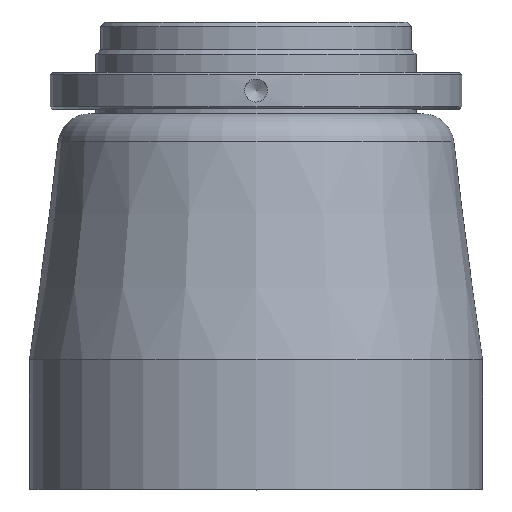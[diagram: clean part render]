
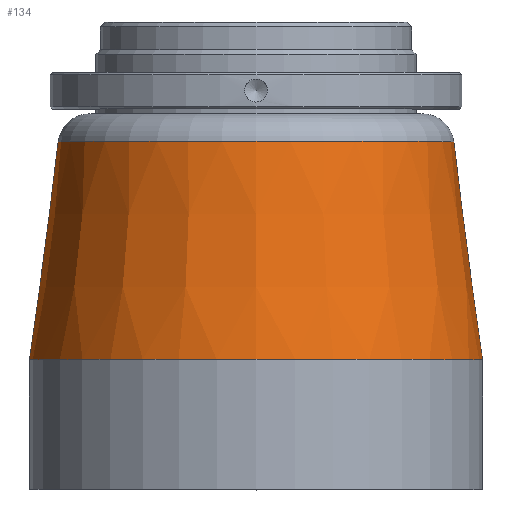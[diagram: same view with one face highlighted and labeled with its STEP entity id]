
A CAD part, top view. The second image highlights one B-rep face of the part: STEP entity #134.
In plain terms, the highlighted conical face has half-angle 7.5 degrees and reference radius 49.5 mm.
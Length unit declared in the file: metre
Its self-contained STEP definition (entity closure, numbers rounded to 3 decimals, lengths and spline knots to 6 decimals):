
#134=ADVANCED_FACE('',(#310,#311),#312,.T.);
#310=FACE_BOUND('',#581,.T.);
#311=FACE_OUTER_BOUND('',#582,.T.);
#312=CONICAL_SURFACE('',#583,0.0495,0.131);
#581=EDGE_LOOP('',(#864));
#582=EDGE_LOOP('',(#865));
#583=AXIS2_PLACEMENT_3D('',#866,#867,#868);
#864=ORIENTED_EDGE('',*,*,#1312,.F.);
#865=ORIENTED_EDGE('',*,*,#1313,.T.);
#866=CARTESIAN_POINT('',(-0.029174,0.023368,0.0));
#867=DIRECTION('',(0.0,-1.0,-0.0));
#868=DIRECTION('',(0.0,0.0,-1.0));
#1312=EDGE_CURVE('',#1512,#1512,#1513,.T.);
#1313=EDGE_CURVE('',#1514,#1514,#1515,.T.);
#1512=VERTEX_POINT('',#1894);
#1513=CIRCLE('',#1895,0.043227);
#1514=VERTEX_POINT('',#1896);
#1515=CIRCLE('',#1897,0.0495);
#1894=CARTESIAN_POINT('',(-0.029174,0.071016,0.043227));
#1895=AXIS2_PLACEMENT_3D('',#2227,#2228,#2229);
#1896=CARTESIAN_POINT('',(-0.029174,0.023368,0.0495));
#1897=AXIS2_PLACEMENT_3D('',#2230,#2231,#2232);
#2227=CARTESIAN_POINT('',(-0.029174,0.071016,0.0));
#2228=DIRECTION('',(0.0,1.0,0.0));
#2229=DIRECTION('',(0.0,0.0,1.0));
#2230=CARTESIAN_POINT('',(-0.029174,0.023368,0.0));
#2231=DIRECTION('',(0.0,1.0,0.0));
#2232=DIRECTION('',(0.0,0.0,1.0));
